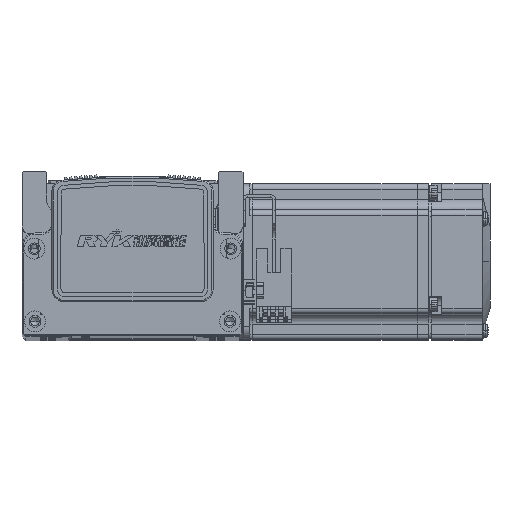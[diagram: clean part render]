
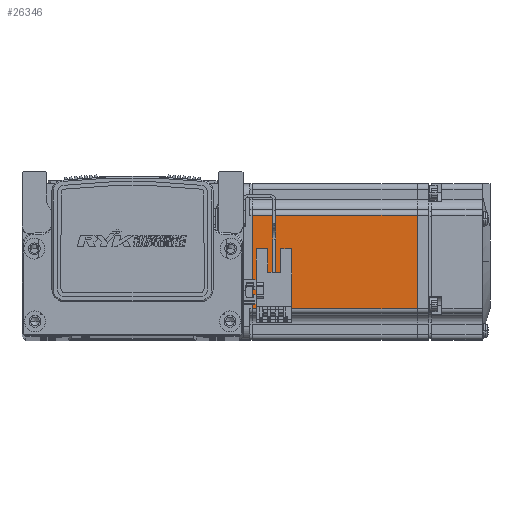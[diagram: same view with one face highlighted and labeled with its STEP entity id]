
A CAD part, top view. The second image highlights one B-rep face of the part: STEP entity #26346.
In plain terms, the highlighted planar face has unit normal (0, 0, 1) as drawn and (0, 0, -1) by its records, which use the part's own axes.
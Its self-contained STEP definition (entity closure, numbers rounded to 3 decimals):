
#7809 = AXIS2_PLACEMENT_3D ( 'NONE', #9773, #9768, #9777 ) ;
#9749 = PLANE ( 'NONE',  #7809 ) ;
#9768 = DIRECTION ( 'NONE',  ( 0., 0., -1. ) ) ;
#9773 = CARTESIAN_POINT ( 'NONE',  ( -6.5, 25., -30. ) ) ;
#9777 = DIRECTION ( 'NONE',  ( -1., 0., 0. ) ) ;
#19341 = EDGE_LOOP ( 'NONE', ( #77610, #77654, #77593, #77591 ) ) ;
#19649 = CARTESIAN_POINT ( 'NONE',  ( -7.75, 18., -30. ) ) ;
#19677 = CARTESIAN_POINT ( 'NONE',  ( -7.75, -18., -30. ) ) ;
#19734 = CARTESIAN_POINT ( 'NONE',  ( -70.95, -18., -30. ) ) ;
#19855 = CARTESIAN_POINT ( 'NONE',  ( -70.95, 18., -30. ) ) ;
#26346 = ADVANCED_FACE ( 'NONE', ( #54057 ), #9749, .T. ) ;
#36761 = VECTOR ( 'NONE', #39272, 1000. ) ;
#36788 = VECTOR ( 'NONE', #39216, 1000. ) ;
#36800 = LINE ( 'NONE', #39231, #36788 ) ;
#36810 = LINE ( 'NONE', #39281, #36761 ) ;
#36854 = LINE ( 'NONE', #39327, #36868 ) ;
#36868 = VECTOR ( 'NONE', #39335, 1000. ) ;
#36898 = LINE ( 'NONE', #39437, #36908 ) ;
#36908 = VECTOR ( 'NONE', #39449, 1000. ) ;
#39216 = DIRECTION ( 'NONE',  ( 0., -1., 0. ) ) ;
#39231 = CARTESIAN_POINT ( 'NONE',  ( -7.75, 25., -30. ) ) ;
#39272 = DIRECTION ( 'NONE',  ( -1., 0., 0. ) ) ;
#39281 = CARTESIAN_POINT ( 'NONE',  ( -6.5, -18., -30. ) ) ;
#39327 = CARTESIAN_POINT ( 'NONE',  ( -6.5, 18., -30. ) ) ;
#39335 = DIRECTION ( 'NONE',  ( 1., 0., 0. ) ) ;
#39437 = CARTESIAN_POINT ( 'NONE',  ( -70.95, 25., -30. ) ) ;
#39449 = DIRECTION ( 'NONE',  ( 0., 1., 0. ) ) ;
#54057 = FACE_OUTER_BOUND ( 'NONE', #19341, .T. ) ;
#60690 = EDGE_CURVE ( 'NONE', #76132, #76150, #36800, .T. ) ;
#60708 = EDGE_CURVE ( 'NONE', #76150, #76129, #36810, .T. ) ;
#60749 = EDGE_CURVE ( 'NONE', #76170, #76132, #36854, .T. ) ;
#60850 = EDGE_CURVE ( 'NONE', #76129, #76170, #36898, .T. ) ;
#76129 = VERTEX_POINT ( 'NONE', #19734 ) ;
#76132 = VERTEX_POINT ( 'NONE', #19649 ) ;
#76150 = VERTEX_POINT ( 'NONE', #19677 ) ;
#76170 = VERTEX_POINT ( 'NONE', #19855 ) ;
#77591 = ORIENTED_EDGE ( 'NONE', *, *, #60749, .T. ) ;
#77593 = ORIENTED_EDGE ( 'NONE', *, *, #60850, .T. ) ;
#77610 = ORIENTED_EDGE ( 'NONE', *, *, #60690, .T. ) ;
#77654 = ORIENTED_EDGE ( 'NONE', *, *, #60708, .T. ) ;
